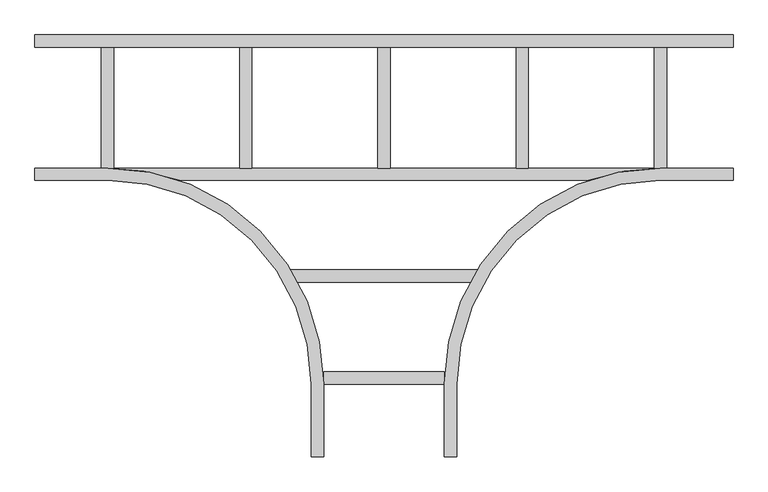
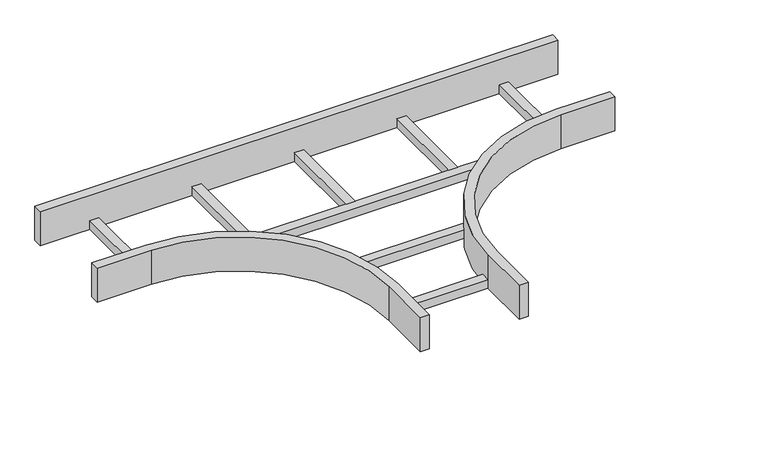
"""IFC4 building model written with IfcOpenShell, lengths in millimetres: cable carrier fitting geometry, BAKS_LD_TEE_Ladder horizontal tee_TDV : TDVP_H100."""

from ifc_helpers import new_model, si_unit, frame, origin, place, context, project, spatial, polyline, circle_curve, outline, extrude, faceted_brep, source, transform, mapped, element, save
from ifc_brep_helpers import plane_surface, cylinder_surface, revolved_surface, advanced_brep


def cable_carrier_fitting_215990fd(model_context):
    return source(origin(), model_context, "Body", "SolidModel", [
        extrude(outline(polyline([(191.8889052, -334.6), (191.8889052, -360.0), (-191.8889052, -360.0), (-191.8889052, -334.6), (191.8889052, -334.6)])), frame((0.0, 0.0, -50.0), z_axis=(0.0, 0.0, 1.0), x_axis=(1.0, 0.0, 0.0)), (0.0, 0.0, 1.0), 25.4),
        extrude(outline(polyline([(124.6, -544.6), (124.6, -570.0), (-124.6, -570.0), (-124.6, -544.6), (124.6, -544.6)])), frame((0.0, 0.0, -50.0), z_axis=(0.0, 0.0, 1.0), x_axis=(1.0, 0.0, 0.0)), (0.0, 0.0, 1.0), 25.4),
        extrude(outline(polyline([(582.7, 124.6), (582.7, -124.6), (557.3, -124.6), (557.3, 124.6), (582.7, 124.6)])), frame((0.0, 0.0, -50.0), z_axis=(0.0, 0.0, 1.0), x_axis=(1.0, 0.0, 0.0)), (0.0, 0.0, 1.0), 25.4),
        extrude(outline(polyline([(297.7, 124.6), (297.7, -124.6), (272.3, -124.6), (272.3, 124.6), (297.7, 124.6)])), frame((0.0, 0.0, -50.0), z_axis=(0.0, 0.0, 1.0), x_axis=(1.0, 0.0, 0.0)), (0.0, 0.0, 1.0), 25.4),
        extrude(outline(polyline([(12.7, 124.6), (12.7, -124.6), (-12.7, -124.6), (-12.7, 124.6), (12.7, 124.6)])), frame((0.0, 0.0, -50.0), z_axis=(0.0, 0.0, 1.0), x_axis=(1.0, 0.0, 0.0)), (0.0, 0.0, 1.0), 25.4),
        extrude(outline(polyline([(-272.3, 124.6), (-272.3, -124.6), (-297.7, -124.6), (-297.7, 124.6), (-272.3, 124.6)])), frame((0.0, 0.0, -50.0), z_axis=(0.0, 0.0, 1.0), x_axis=(1.0, 0.0, 0.0)), (0.0, 0.0, 1.0), 25.4),
        extrude(outline(polyline([(-557.3, 124.6), (-557.3, -124.6), (-582.7, -124.6), (-582.7, 124.6), (-557.3, 124.6)])), frame((0.0, 0.0, -50.0), z_axis=(0.0, 0.0, 1.0), x_axis=(1.0, 0.0, 0.0)), (0.0, 0.0, 1.0), 25.4),
        advanced_brep(
        [(-150.0, -570.0, 50.0), (-150.0, -720.0, 50.0), (-124.6, -720.0, 50.0), (-124.6, -570.0, 50.0), (-570.0, -124.6, 50.0), (-720.0, -124.6, 50.0), (-720.0, -150.0, 50.0), (-570.0, -150.0, 50.0), (150.0, -570.0, 50.0), (570.0, -150.0, 50.0), (720.0, -150.0, 50.0), (720.0, -124.6, 50.0), (570.0, -124.6, 50.0), (124.6, -570.0, 50.0), (124.6, -720.0, 50.0), (150.0, -720.0, 50.0), (-150.0, -570.0, -50.0), (-570.0, -150.0, -50.0), (-720.0, -150.0, -50.0), (-720.0, -124.6, -50.0), (720.0, -124.6, -50.0), (720.0, -150.0, -50.0), (570.0, -150.0, -50.0), (150.0, -570.0, -50.0), (150.0, -720.0, -50.0), (124.6, -720.0, -50.0), (124.6, -570.0, -50.0), (421.7395535, -150.0, -50.0), (-421.7395535, -150.0, -50.0), (-124.6, -570.0, -50.0), (-124.6, -720.0, -50.0), (-150.0, -720.0, -50.0), (-421.7395535, -150.0, -24.6), (-570.0, -124.6, -24.6), (570.0, -124.6, -24.6), (-570.0, -150.0, -24.6), (570.0, -150.0, -24.6), (421.7395535, -150.0, -24.6)],
        [
            (0, 1),
            (1, 2),
            (2, 3),
            (3, 4, circle_curve(frame((-570.0, -570.0, 50.0), z_axis=(0.0, 0.0, 1.0), x_axis=(1.0, 0.0, 0.0)), 445.4)),
            (4, 5),
            (5, 6),
            (6, 7),
            (7, 0, circle_curve(frame((-570.0, -570.0, 50.0), z_axis=(0.0, 0.0, -1.0), x_axis=(1.0, 0.0, 0.0)), 420.0)),
            (8, 9, circle_curve(frame((570.0, -570.0, 50.0), z_axis=(0.0, 0.0, -1.0), x_axis=(1.0, 0.0, 0.0)), 420.0)),
            (9, 10),
            (10, 11),
            (11, 12),
            (12, 13, circle_curve(frame((570.0, -570.0, 50.0), z_axis=(0.0, 0.0, 1.0), x_axis=(1.0, 0.0, 0.0)), 445.4)),
            (13, 14),
            (14, 15),
            (15, 8),
            (16, 17, circle_curve(frame((-570.0, -570.0, -50.0), z_axis=(0.0, 0.0, 1.0), x_axis=(1.0, 0.0, 0.0)), 420.0)),
            (17, 18),
            (18, 19),
            (19, 20),
            (20, 21),
            (21, 22),
            (22, 23, circle_curve(frame((570.0, -570.0, -50.0), z_axis=(0.0, 0.0, 1.0), x_axis=(1.0, 0.0, 0.0)), 420.0)),
            (23, 24),
            (24, 25),
            (25, 26),
            (26, 27, circle_curve(frame((570.0, -570.0, -50.0), z_axis=(0.0, 0.0, -1.0), x_axis=(1.0, 0.0, 0.0)), 445.4)),
            (27, 28),
            (28, 29, circle_curve(frame((-570.0, -570.0, -50.0), z_axis=(0.0, 0.0, -1.0), x_axis=(1.0, 0.0, 0.0)), 445.4)),
            (29, 30),
            (30, 31),
            (31, 16),
            (0, 16),
            (31, 1),
            (30, 2),
            (29, 3),
            (28, 32),
            (32, 33, circle_curve(frame((-570.0, -570.0, -24.6), z_axis=(0.0, 0.0, 1.0), x_axis=(1.0, 0.0, 0.0)), 445.4)),
            (33, 4),
            (33, 34),
            (34, 12),
            (11, 20),
            (19, 5),
            (18, 6),
            (17, 35),
            (35, 7),
            (8, 23),
            (22, 36),
            (36, 9),
            (21, 10),
            (34, 37, circle_curve(frame((570.0, -570.0, -24.6), z_axis=(0.0, 0.0, 1.0), x_axis=(1.0, 0.0, 0.0)), 445.4)),
            (37, 27),
            (26, 13),
            (25, 14),
            (24, 15),
            (32, 37),
        ],
        [
            plane_surface(frame((-150.0, -570.0, 50.0), z_axis=(0.0, 0.0, 1.0), x_axis=(0.0, -1.0, 0.0))),
            plane_surface(frame((-150.0, -570.0, -50.0), z_axis=(0.0, 0.0, -1.0), x_axis=(0.0, 1.0, 0.0))),
            plane_surface(frame((-150.0, -570.0, 50.0), z_axis=(-1.0, 0.0, 0.0), x_axis=(0.0, 0.0, -1.0))),
            plane_surface(frame((-150.0, -720.0, 50.0), z_axis=(0.0, -1.0, 0.0), x_axis=(0.0, 0.0, -1.0))),
            plane_surface(frame((-124.6, -720.0, 50.0), z_axis=(1.0, 0.0, 0.0), x_axis=(0.0, 0.0, -1.0))),
            cylinder_surface(frame((-570.0, -570.0, -50.0), z_axis=(0.0, 0.0, 1.0), x_axis=(1.0, 0.0, 0.0)), 445.4),
            plane_surface(frame((-570.0, -124.6, 50.0), z_axis=(0.0, 1.0, 0.0), x_axis=(0.0, 0.0, -1.0))),
            plane_surface(frame((-720.0, -124.6, 50.0), z_axis=(-1.0, 0.0, 0.0), x_axis=(0.0, 0.0, -1.0))),
            plane_surface(frame((-720.0, -150.0, 50.0), z_axis=(0.0, -1.0, 0.0), x_axis=(0.0, 0.0, -1.0))),
            revolved_surface(polyline([(-150.0, -570.0, -50.0), (-150.0, -570.0, 50.0)]), (-570.0, -570.0, -50.0), (0.0, 0.0, -1.0)),
            revolved_surface(polyline([(990.0, -570.0, -50.0), (990.0, -570.0, 50.0)]), (570.0, -570.0, 0.0), (0.0, 0.0, -1.0)),
            plane_surface(frame((570.0, -150.0, 50.0), z_axis=(0.0, -1.0, 0.0), x_axis=(0.0, 0.0, -1.0))),
            plane_surface(frame((720.0, -150.0, 50.0), z_axis=(1.0, 0.0, 0.0), x_axis=(0.0, 0.0, -1.0))),
            cylinder_surface(frame((570.0, -570.0, 0.0), z_axis=(0.0, 0.0, 1.0), x_axis=(1.0, 0.0, 0.0)), 445.4),
            plane_surface(frame((124.6, -570.0, 50.0), z_axis=(-1.0, 0.0, 0.0), x_axis=(0.0, 0.0, -1.0))),
            plane_surface(frame((124.6, -720.0, 50.0), z_axis=(0.0, -1.0, 0.0), x_axis=(0.0, 0.0, -1.0))),
            plane_surface(frame((150.0, -720.0, 50.0), z_axis=(1.0, 0.0, 0.0), x_axis=(0.0, 0.0, -1.0))),
            plane_surface(frame((-570.0, -124.6, -24.6), z_axis=(0.0, 0.0, 1.0), x_axis=(-1.0, 0.0, 0.0))),
            plane_surface(frame((-570.0, -150.0, -24.6), z_axis=(0.0, -1.0, 0.0), x_axis=(0.0, 0.0, -1.0))),
        ],
        [
            (0, [[1, 2, 3, 4, 5, 6, 7, 8]]),
            (0, [[9, 10, 11, 12, 13, 14, 15, 16]]),
            (1, [[17, 18, 19, 20, 21, 22, 23, 24, 25, 26, 27, 28, 29, 30, 31, 32]]),
            (2, [[-1, 33, -32, 34]]),
            (3, [[-2, -34, -31, 35]]),
            (4, [[-3, -35, -30, 36]]),
            (5, [[-4, -36, -29, 37, 38, 39]]),
            (6, [[-5, -39, 40, 41, -12, 42, -20, 43]]),
            (7, [[-6, -43, -19, 44]]),
            (8, [[-7, -44, -18, 45, 46]]),
            (9, [[-8, -46, -45, -17, -33]]),
            (10, [[-9, 47, -23, 48, 49]]),
            (11, [[-10, -49, -48, -22, 50]]),
            (12, [[-11, -50, -21, -42]]),
            (13, [[-13, -41, 51, 52, -27, 53]]),
            (14, [[-14, -53, -26, 54]]),
            (15, [[-15, -54, -25, 55]]),
            (16, [[-16, -55, -24, -47]]),
            (17, [[-40, -38, 56, -51]]),
            (18, [[-28, -52, -56, -37]]),
        ],
    ),
        faceted_brep([(720.0, 150.0, 50.0), (-720.0, 150.0, 50.0), (-720.0, 124.6, 50.0), (720.0, 124.6, 50.0), (720.0, 150.0, -50.0), (720.0, 124.6, -50.0), (-720.0, 124.6, -50.0), (-720.0, 150.0, -50.0)], [[[0, 1, 2, 3]], [[4, 5, 6, 7]], [[1, 0, 4, 7]], [[2, 1, 7, 6]], [[3, 2, 6, 5]], [[0, 3, 5, 4]]]),
    ])


if __name__ == "__main__":
    model = new_model("IFC4")
    model_context = context("Model", 3, world=origin())
    ifc_project = project(units=[si_unit("LENGTHUNIT", "METRE", prefix="MILLI")], contexts=[model_context])
    site = spatial("IfcSite", under=ifc_project)
    building = spatial("IfcBuilding", under=site)
    placement = place(None, origin())
    cable_carrier_fitting_shape = cable_carrier_fitting_215990fd(model_context)
    element("IfcCableCarrierFitting", 1, ObjectType="BAKS_LD_TEE_Ladder horizontal tee_TDV : TDVP_H100", at=placement, inside=building, context=model_context, shape_type="MappedRepresentation", body=[
        mapped(cable_carrier_fitting_shape, transform((0.0, 0.0, 0.0), x_axis=(1.0, 0.0, 0.0), y_axis=(0.0, 1.0, 0.0), z_axis=(0.0, 0.0, 1.0))),
    ])
    save(model, "model.ifc")
